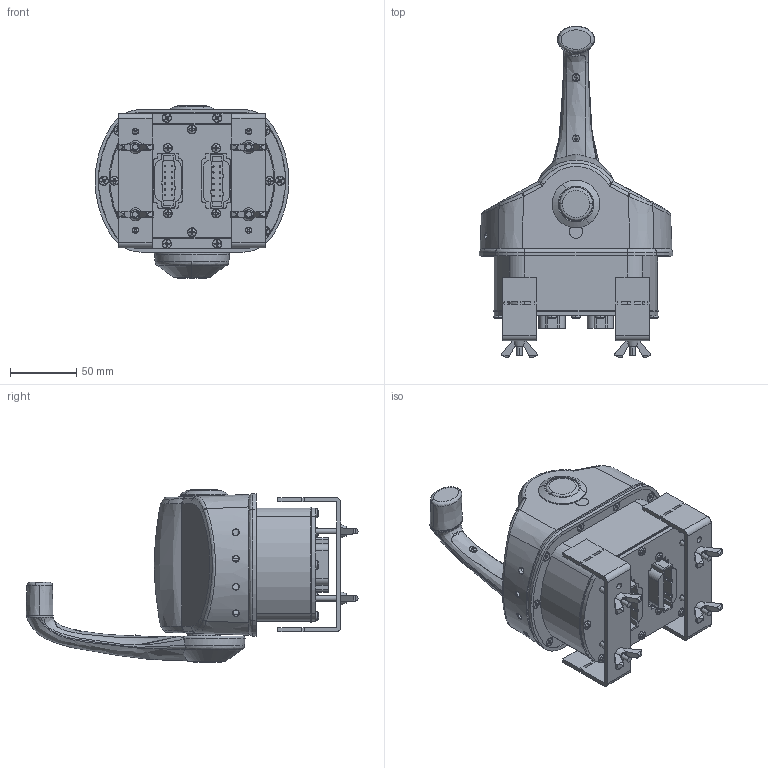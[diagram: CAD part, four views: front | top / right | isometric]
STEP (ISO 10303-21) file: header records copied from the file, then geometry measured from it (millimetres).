
FILE_DESCRIPTION((''),'2;1');
FILE_NAME('164000-41080_CH_INBOARD_RH_ASM','2020-08-19T',('ib46307'),('YANMAR CO., LTD.'),'PRO/ENGINEER BY PARAMETRIC TECHNOLOGY CORPORATION, 2017170','PRO/ENGINEER BY PARAMETRIC TECHNOLOGY CORPORATION, 2017170','');
FILE_SCHEMA(('CONFIG_CONTROL_DESIGN'));
Products named in the file (61): MSBR-55_1; MSBR-54_1; MSBR-53_1; MSBR-52_1; MSBR-51_1; MSBR-50_1; MSBR-47_1; MSBR-46_1; MSBR-45_1; MSBR-44_1; MSBR-43_1; MSBR-42_1; MSBR-41_1; MSBR-40_1; MSBR-39_1; MSBR-38_1; MSBR-37_1; MSBR-36_1; MSBR-35_1; MSBR-34_1; MSBR-33_1; MSBR-32_1; MSBR-31_1; MSBR-30_1; MSBR-29_1; MSBR-28_1; MSBR-27_1; MSBR-26_1; MSBR-25_1; MSBR-24_1; MSBR-23_1; MSBR-22_1; MSBR-21_1; MSBR-20_1; MSBR-19_1; MSBR-15_1; MSBR-14_1; MSBR-13_1; MSBR-10_1; MSBR-9_1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
Assembly tree (60 placements, depth 4):
  164000-41080_CH_INBOARD_RH_ASM
    164000-41080_CH_INBOARD_RH__ASM
      MSBR-55_1
      MSBR-54_1
      MSBR-53_1
      MSBR-52_1
      MSBR-51_1
      MSBR-50_1
      MSBR-47_1
      MSBR-46_1
      MSBR-45_1
      MSBR-44_1
      MSBR-43_1
      MSBR-42_1
      MSBR-41_1
      MSBR-40_1
      MSBR-39_1
      MSBR-38_1
      MSBR-37_1
      MSBR-36_1
      MSBR-35_1
      MSBR-34_1
      MSBR-33_1
      MSBR-32_1
      MSBR-31_1
      MSBR-30_1
      MSBR-29_1
      MSBR-28_1
      MSBR-27_1
      MSBR-26_1
      MSBR-25_1
      MSBR-24_1
      MSBR-23_1
      MSBR-22_1
      MSBR-21_1
      MSBR-20_1
      MSBR-19_1
      MSBR-15_1
      MSBR-14_1
      MSBR-13_1
      MSBR-10_1
      MSBR-9_1
      MSBR-8_1
      MSBR-7_1
      MSBR-6_1
      _164000-41010_CH_INBOARD_SINGLE
      CH_1_ASM
        MSBR-16_1
        MSBR-11_1
      CH_02_ASM
        MSBR-49_1
        MSBR-48_1
        MSBR-3_1
        MSBR-2_1
        MSBR-1_1
        MSBR-18_1
        MSBR-17_1
        MSBR-12_1
        MSBR-5_1
        MSBR-4_1
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Bounding box: 146.63 x 251.13 x 130.26 mm (x, y, z)
Volume: 298000.7 mm3; surface area: 267545.1 mm2
Topology: 54 solids, 62 shells, 3078 faces, 7955 edges, 5059 vertices
Faces by surface type: bspline 1743, revolution 1332, extrusion 2, plane 1
Entity records: 139985 total; most frequent: CARTESIAN_POINT 71237, ORIENTED_EDGE 15685, DIRECTION 9644, EDGE_CURVE 7867, VERTEX_POINT 5056, VECTOR 4011, LINE 4009, EDGE_LOOP 3490
